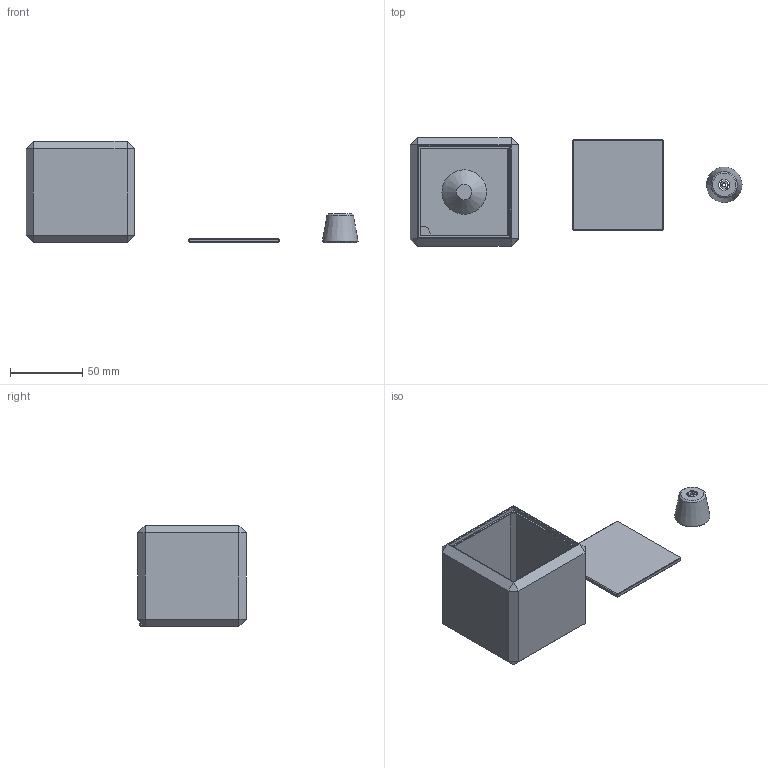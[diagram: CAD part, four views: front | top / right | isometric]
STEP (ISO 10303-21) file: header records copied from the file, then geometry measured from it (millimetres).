
FILE_DESCRIPTION(/* description */ (''),/* implementation_level */ '2;1');
FILE_NAME(/* name */ 'E:/Dropbox/3DP/My_Designs/Thread_Stand/Thread Stand v14.step',/* time_stamp */ '2020-10-31T14:04:50-04:00',/* author */ (''),/* organization */ (''),/* preprocessor_version */ 'ST-DEVELOPER v18.1',/* originating_system */ 'Autodesk Translation Framework v9.3.0.1241',/* authorisation */ '');
FILE_SCHEMA (('AUTOMOTIVE_DESIGN { 1 0 10303 214 3 1 1 }'));
Length unit declared in the file: millimetre
Products named in the file (4): Thread Stand; Thread_Stand_Body; Thread_Cap; Thread_Stand_Lid
Assembly tree (3 placements, depth 2):
  Thread Stand
    Thread_Stand_Body
    Thread_Cap
    Thread_Stand_Lid
Bounding box: 229.83 x 75 x 70 mm (x, y, z)
Volume: 117297.1 mm3; surface area: 60446.8 mm2
Topology: 3 solids, 3 shells, 125 faces, 281 edges, 167 vertices
Faces by surface type: plane 105, cylinder 14, cone 6
Full cylindrical faces by diameter (mm): 2.75 x2, 10.75 x1
Entity records: 3485 total; most frequent: DIRECTION 582, CARTESIAN_POINT 580, ORIENTED_EDGE 562, EDGE_CURVE 281, LINE 244, VECTOR 244, AXIS2_PLACEMENT_3D 169, VERTEX_POINT 167
